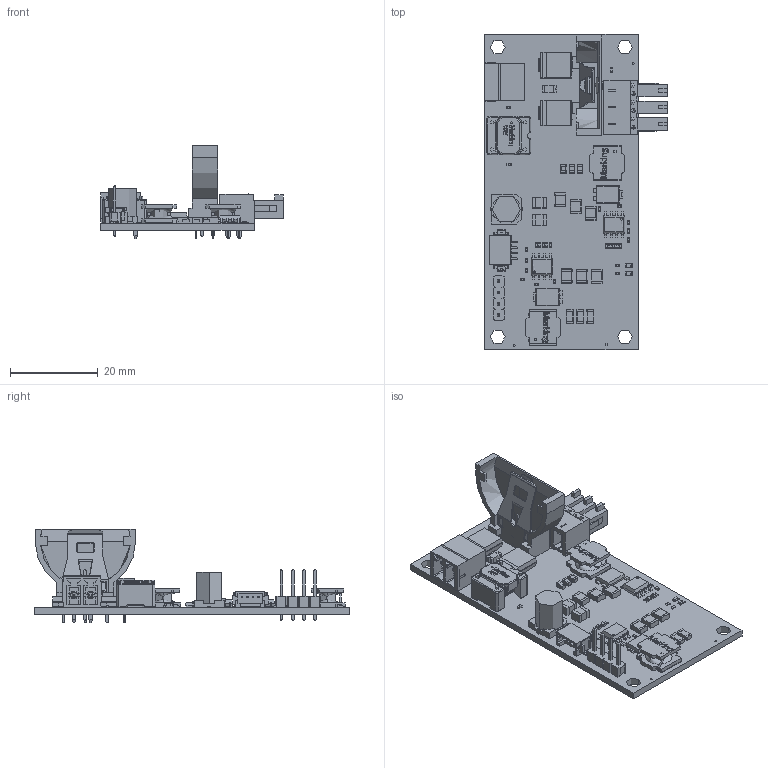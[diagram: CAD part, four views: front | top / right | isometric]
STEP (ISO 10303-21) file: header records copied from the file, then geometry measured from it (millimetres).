
FILE_DESCRIPTION(('STEP AP214'),'1');
FILE_NAME('ADP-NT24V2_3D.stp','2021-12-17T08:24:16',(' '),(' '),'Spatial InterOp 3D',' ',' ');
FILE_SCHEMA(('AUTOMOTIVE_DESIGN { 1 0 10303 214 1 1 1 1 }'));
Length unit declared in the file: metre
Products named in the file (133): C0402; _3f__3f__3f__3f__3f__3f__3f__3f__3f__3f_2; COMPONENTS; C1210; _3f__3f__3f__3f__3f__3f__3f__3f__3f__3f_2-0; C0805; _3f__3f__3f__3f__3f__3f__3f__3f__3f__3f_2-1; C1206; _3f__3f__3f__3f__3f__3f__3f__3f__3f__3f_2-2; DO-214AB-12; User_Library-DO-214AB-SMC; SOT-89-132-POWERDI-1; Component1; Component2; Component3; Component4; SOT-89-132-POWERDI; LED0603_0402; User_Library-SMD_LED_0603; User_Library-SMD_LED_0604; User_Library-SMD_LED_0608; User_Library-SMD_LED_0609; User_Library-SMD_LED_0610; User_Library-SMD_LED_0611; User_Library-SMD_LED_0612; User_Library-SMD_LED_0613; User_Library-SMD_LED_0614; User_Library-SMD_LED_0605; User_Library-SMD_LED_0606; User_Library-SMD_LED_0607; FUSE1206; Boss-Extrude2; CHOKE4-10X807MM-1; Component1-3; Component2-4; Component3-5; Component4-6; Component5; Component6; Component7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
Assembly tree (204 placements, depth 5):
  ADP-NT24V2_3D
    COMPONENTS
      C0402
        _3f__3f__3f__3f__3f__3f__3f__3f__3f__3f_2
      C0402
        _3f__3f__3f__3f__3f__3f__3f__3f__3f__3f_2
      C0402
        _3f__3f__3f__3f__3f__3f__3f__3f__3f__3f_2
      C0402
        _3f__3f__3f__3f__3f__3f__3f__3f__3f__3f_2
      C0402
        _3f__3f__3f__3f__3f__3f__3f__3f__3f__3f_2
      C0402
        _3f__3f__3f__3f__3f__3f__3f__3f__3f__3f_2
      C0402
        _3f__3f__3f__3f__3f__3f__3f__3f__3f__3f_2
      C0402
        _3f__3f__3f__3f__3f__3f__3f__3f__3f__3f_2
      C0402
        _3f__3f__3f__3f__3f__3f__3f__3f__3f__3f_2
      C0402
        _3f__3f__3f__3f__3f__3f__3f__3f__3f__3f_2
      C1210
        _3f__3f__3f__3f__3f__3f__3f__3f__3f__3f_2-0
      C1210
        _3f__3f__3f__3f__3f__3f__3f__3f__3f__3f_2-0
      C1210
        _3f__3f__3f__3f__3f__3f__3f__3f__3f__3f_2-0
      C1210
        _3f__3f__3f__3f__3f__3f__3f__3f__3f__3f_2-0
      C1210
        _3f__3f__3f__3f__3f__3f__3f__3f__3f__3f_2-0
      C1210
        _3f__3f__3f__3f__3f__3f__3f__3f__3f__3f_2-0
      C0805
        _3f__3f__3f__3f__3f__3f__3f__3f__3f__3f_2-1
      C0805
        _3f__3f__3f__3f__3f__3f__3f__3f__3f__3f_2-1
      C0805
        _3f__3f__3f__3f__3f__3f__3f__3f__3f__3f_2-1
      C1206
        _3f__3f__3f__3f__3f__3f__3f__3f__3f__3f_2-2
      C1206
        _3f__3f__3f__3f__3f__3f__3f__3f__3f__3f_2-2
      C1206
        _3f__3f__3f__3f__3f__3f__3f__3f__3f__3f_2-2
      DO-214AB-12
        User_Library-DO-214AB-SMC
      SOT-89-132-POWERDI
        SOT-89-132-POWERDI-1
          Component1
          Component2
          Component3
          Component4
      SOT-89-132-POWERDI
        SOT-89-132-POWERDI-1
          Component1
          Component2
          Component3
          Component4
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Bounding box: 41.69 x 72 x 21.31 mm (x, y, z)
Topology: 124 solids, 129 shells, 4841 faces, 12353 edges, 7613 vertices
Faces by surface type: plane 3036, cylinder 1146, sphere 201, bspline 163, torus 150, extrusion 113, cone 26, revolution 6
Full cylindrical faces by diameter (mm): 6.467 x1
Entity records: 120644 total; most frequent: CARTESIAN_POINT 29730, DIRECTION 13783, ORIENTED_EDGE 13657, EDGE_CURVE 6841, VECTOR 4981, LINE 4906, AXIS2_PLACEMENT_3D 4398, VERTEX_POINT 4370
